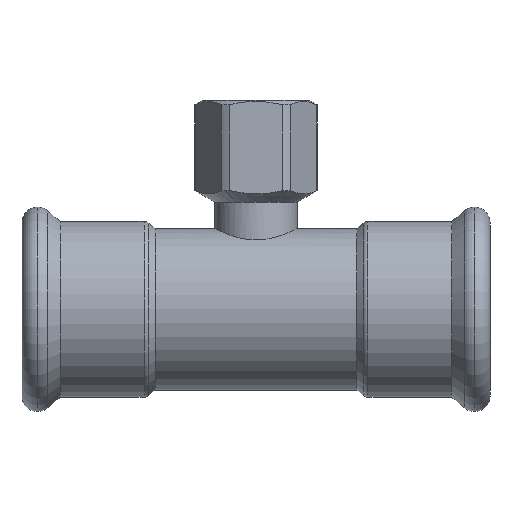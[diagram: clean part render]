
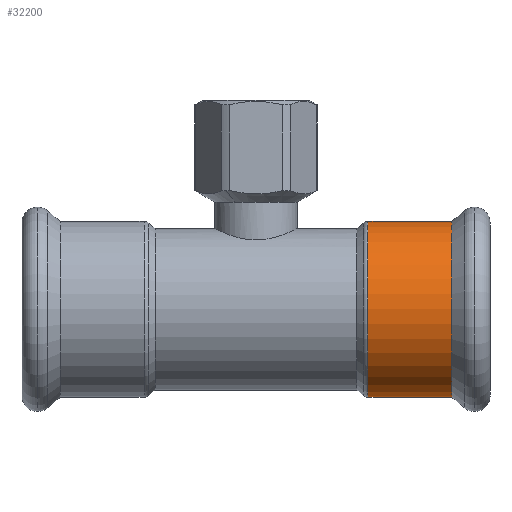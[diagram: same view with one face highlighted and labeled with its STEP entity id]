
A CAD part, top view. The second image highlights one B-rep face of the part: STEP entity #32200.
In plain terms, the highlighted cylindrical face has radius 19.15 mm (diameter 38.3 mm), a partial arc.
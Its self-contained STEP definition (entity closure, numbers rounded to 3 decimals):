
#19850=CARTESIAN_POINT('',(-288.511,138.262,
0.));
#19860=DIRECTION('',(0.,1.,0.));
#19870=DIRECTION('',(1.,0.,0.));
#19880=AXIS2_PLACEMENT_3D('',#19850,#19860,#19870);
#19890=CYLINDRICAL_SURFACE('',#19880,19.15);
#19900=CARTESIAN_POINT('',(-307.661,138.262,
0.));
#19910=DIRECTION('',(0.,1.,0.));
#19920=VECTOR('',#19910,1.);
#19930=LINE('',#19900,#19920);
#19940=CARTESIAN_POINT('',(-307.661,128.855,
0.));
#19950=VERTEX_POINT('',#19940);
#19960=CARTESIAN_POINT('',(-307.661,147.122,
0.));
#19970=VERTEX_POINT('',#19960);
#19980=EDGE_CURVE('',#19950,#19970,#19930,.T.);
#20000=CARTESIAN_POINT('',(-288.511,128.855,
0.));
#20010=DIRECTION('',(0.,-1.,0.));
#20020=DIRECTION('',(1.,0.,0.));
#20030=AXIS2_PLACEMENT_3D('',#20000,#20010,#20020);
#20040=CIRCLE('',#20030,19.15);
#20050=CARTESIAN_POINT('',(-269.361,128.855,
0.));
#20060=VERTEX_POINT('',#20050);
#20090=CARTESIAN_POINT('',(-269.361,138.262,
0.));
#20100=DIRECTION('',(0.,1.,0.));
#20110=VECTOR('',#20100,1.);
#20120=LINE('',#20090,#20110);
#20130=CARTESIAN_POINT('',(-269.361,147.122,
0.));
#20140=VERTEX_POINT('',#20130);
#20150=EDGE_CURVE('',#20060,#20140,#20120,.T.);
#20170=CARTESIAN_POINT('',(-288.511,147.122,
0.));
#20180=DIRECTION('',(0.,1.,0.));
#20190=DIRECTION('',(1.,0.,0.));
#20200=AXIS2_PLACEMENT_3D('',#20170,#20180,#20190);
#20210=CIRCLE('',#20200,19.15);
#32120=EDGE_CURVE('',#20060,#19950,#20040,.T.);
#32130=ORIENTED_EDGE('',*,*,#32120,.F.);
#32140=ORIENTED_EDGE('',*,*,#19980,.F.);
#32150=EDGE_CURVE('',#19970,#20140,#20210,.T.);
#32160=ORIENTED_EDGE('',*,*,#32150,.F.);
#32170=ORIENTED_EDGE('',*,*,#20150,.T.);
#32180=EDGE_LOOP('',(#32170,#32160,#32140,#32130));
#32190=FACE_OUTER_BOUND('',#32180,.T.);
#32200=ADVANCED_FACE('',(#32190),#19890,.T.);
